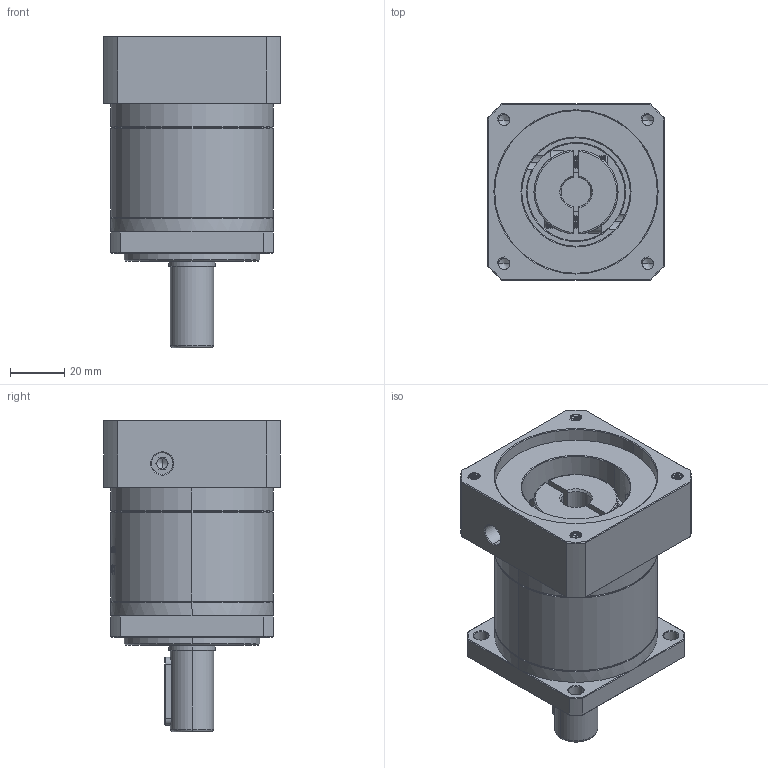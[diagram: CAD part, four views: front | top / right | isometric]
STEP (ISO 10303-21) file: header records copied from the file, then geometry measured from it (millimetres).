
FILE_DESCRIPTION (( 'STEP AP214' ), '1' );
FILE_NAME ('ZF060-D16-L1-P2-11-60-75-M5.step', '2023-08-16T04:25:45', ( '' ), ( '' ), 'SwSTEP 2.0', 'SolidWorks 2016', '' );
FILE_SCHEMA (( 'AUTOMOTIVE_DESIGN' ));
Length unit declared in the file: millimetre
Products named in the file (1): ZF060-D16-L1-P2-11-60-75-M5
Bounding box: 65 x 65 x 115 mm (x, y, z)
Volume: 235685 mm3; surface area: 46821.1 mm2
Topology: 6 solids, 6 shells, 1771 faces, 4792 edges, 3105 vertices
Faces by surface type: plane 799, cylinder 364, bspline 354, cone 236, torus 18
Entity records: 101600 total; most frequent: CARTESIAN_POINT 41849, ORIENTED_EDGE 9556, DIRECTION 6846, EDGE_CURVE 4778, VERTEX_POINT 3105, VECTOR 2436, LINE 2436, AXIS2_PLACEMENT_3D 2205
